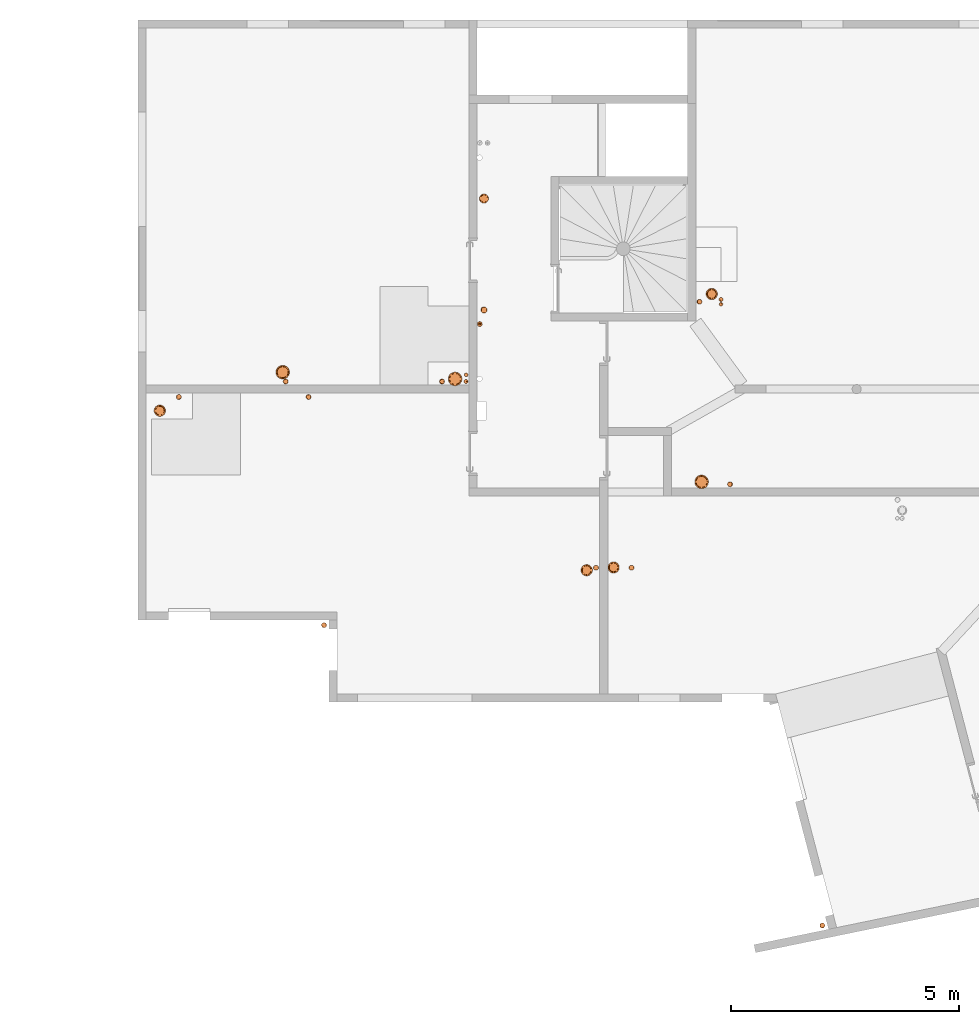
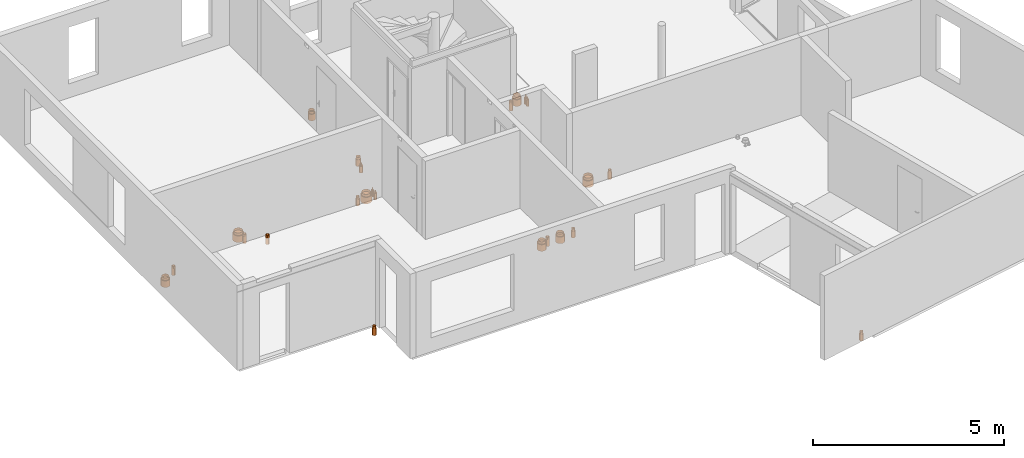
# One storey, part 22 of 24: 24 proxies.
"""IFC2X3 building model written with IfcOpenShell, lengths in centimetres."""

import ifcopenshell
import ifcopenshell.guid

model = None  # the IFC model being written
_history = None  # IfcOwnerHistory: only IFC2X3 demands one
_inside = {}  # id of a spatial element -> (the spatial element, [elements in it])
_under = {}  # id of a project, library or spatial element -> (it, [spatial elements below it])
_declared = {}  # id of a project -> (the project, [libraries it declares])
_typed = {}  # id of a type object -> (the type object, [elements of that type])
_made_of = {}  # id of a material, layer set ... -> (it, [elements and type objects made of it])


def new_model(schema):
    """Start an empty IFC model of exactly this schema.

    Asked for "IFC4X3", IfcOpenShell would pick the latest addendum, in which some entities
    have other attributes; the version numbers below select the first issue.
    IFC2X3 requires an IfcOwnerHistory on every rooted entity: one is made here for all.
    """
    global model, _history
    if schema == "IFC4X3":
        model = ifcopenshell.file(schema_version=(4, 3, 0, 0))
    else:
        model = ifcopenshell.file(schema=schema)
    _inside.clear()
    _under.clear()
    _declared.clear()
    _typed.clear()
    _made_of.clear()
    _history = None
    if model.schema == "IFC2X3":
        org = make("IfcOrganization", Name="unknown")
        user = make(
            "IfcPersonAndOrganization",
            ThePerson=make("IfcPerson", FamilyName="unknown"),
            TheOrganization=org,
        )
        app = make(
            "IfcApplication",
            ApplicationDeveloper=org,
            Version="unknown",
            ApplicationFullName="unknown",
            ApplicationIdentifier="unknown",
        )
        _history = make(
            "IfcOwnerHistory",
            OwningUser=user,
            OwningApplication=app,
            ChangeAction="ADDED",
            CreationDate=0,
        )
    return model


def make(cls, **values):
    """One entity of the class cls with the attributes given. An attribute that is None is left unset."""
    return model.create_entity(
        cls, **{name: value for name, value in values.items() if value is not None}
    )


def entity(cls, *values):
    """Any entity or typed value of the class cls, its attributes in the order of the schema. None: left unset."""
    e = model.create_entity(cls)
    for i, value in enumerate(values):
        if value is not None:
            e[i] = value
    return e


def rooted(cls, **values):
    """An entity with a GlobalId (a new one), such as an element, a storey or a relation."""
    return make(cls, GlobalId=ifcopenshell.guid.new(), OwnerHistory=_history, **values)


def si_unit(unit_type, name, prefix=None):
    """IfcSIUnit, for example si_unit("LENGTHUNIT", "METRE", prefix="MILLI")."""
    return make("IfcSIUnit", UnitType=unit_type, Prefix=prefix, Name=name)


def converted_unit(unit_type, name, factor, base, dimensions=None, offset=None):
    """IfcConversionBasedUnit, such as the inch: factor (a typed value) times the base unit."""
    return make(
        "IfcConversionBasedUnit"
        if offset is None
        else "IfcConversionBasedUnitWithOffset",
        ConversionOffset=offset,
        Dimensions=None
        if dimensions is None
        else entity("IfcDimensionalExponents", *dimensions),
        UnitType=unit_type,
        Name=name,
        ConversionFactor=make(
            "IfcMeasureWithUnit", ValueComponent=factor, UnitComponent=base
        ),
    )


def derived_unit(unit_type, elements):
    """IfcDerivedUnit: a product of units, each with its exponent."""
    return make(
        "IfcDerivedUnit",
        Elements=[
            make("IfcDerivedUnitElement", Unit=unit, Exponent=power)
            for unit, power in elements
        ],
        UnitType=unit_type,
    )


def assignment(units):
    """IfcUnitAssignment: the units of a project."""
    return None if units is None else make("IfcUnitAssignment", Units=units)


def point(xyz):
    """IfcCartesianPoint."""
    return None if xyz is None else make("IfcCartesianPoint", Coordinates=xyz)


def direction(xyz):
    """IfcDirection."""
    return None if xyz is None else make("IfcDirection", DirectionRatios=xyz)


def frame(location, z_axis=None, x_axis=None):
    """IfcAxis2Placement3D, a coordinate frame: its origin and axes. An axis left out is left unset."""
    return make(
        "IfcAxis2Placement3D",
        Location=point(location),
        Axis=direction(z_axis),
        RefDirection=direction(x_axis),
    )


def frame_2d(location, x_axis=None):
    """IfcAxis2Placement2D, a coordinate frame in the plane: its origin and x axis."""
    return make(
        "IfcAxis2Placement2D", Location=point(location), RefDirection=direction(x_axis)
    )


def origin():
    """The frame at (0, 0, 0) with its axes left unset."""
    return frame((0.0, 0.0, 0.0))


def place(relative_to, where):
    """IfcLocalPlacement: puts the frame where relative to a parent placement (None: the world)."""
    return make(
        "IfcLocalPlacement", PlacementRelTo=relative_to, RelativePlacement=where
    )


def context(
    kind, dimensions, precision=None, world=None, true_north=None, identifier=None
):
    """IfcGeometricRepresentationContext, for example the 3D "Model" context."""
    return make(
        "IfcGeometricRepresentationContext",
        ContextIdentifier=identifier,
        ContextType=kind,
        CoordinateSpaceDimension=dimensions,
        Precision=precision,
        WorldCoordinateSystem=world,
        TrueNorth=true_north,
    )


def subcontext(parent, identifier, kind, view, scale=None):
    """IfcGeometricRepresentationSubContext, for example "Body" below "Model"."""
    return make(
        "IfcGeometricRepresentationSubContext",
        ContextIdentifier=identifier,
        ContextType=kind,
        ParentContext=parent,
        TargetScale=scale,
        TargetView=view,
    )


def project(units=None, contexts=None):
    """IfcProject with its units and contexts."""
    return rooted(
        "IfcProject",
        Name="project",
        RepresentationContexts=contexts,
        UnitsInContext=assignment(units),
    )


def spatial(cls, under=None, at=None, **own):
    """A site, building, storey or space (cls), placed at a placement, below another one or the project."""
    s = rooted(cls, ObjectPlacement=at, **own)
    if under is not None:
        _under.setdefault(under.id(), (under, []))[1].append(s)
    return s


def profile(cls, at=None, kind="AREA", **sizes):
    """A parametric profile (cls). Its sizes go by their IFC names, for example OverallWidth=200.0."""
    return make(cls, ProfileType=kind, Position=at, **sizes)


def circle(**sizes):
    """IfcCircleProfileDef."""
    return profile("IfcCircleProfileDef", **sizes)


def hollow_circle(**sizes):
    """IfcCircleHollowProfileDef."""
    return profile("IfcCircleHollowProfileDef", **sizes)


def extrude(swept, where, along, depth):
    """IfcExtrudedAreaSolid: the profile swept, set in the frame where, extruded along a direction by depth."""
    return make(
        "IfcExtrudedAreaSolid",
        SweptArea=swept,
        Position=where,
        ExtrudedDirection=direction(along),
        Depth=depth,
    )


def shape(context_of_items, identifier, shape_type, items):
    """IfcShapeRepresentation: the items that make up one representation, for example the "Body"."""
    return make(
        "IfcShapeRepresentation",
        ContextOfItems=context_of_items,
        RepresentationIdentifier=identifier,
        RepresentationType=shape_type,
        Items=items,
    )


def source(mapping_origin, context_of_items, identifier, shape_type, items):
    """IfcRepresentationMap: a shape defined once, which mapped items show again and again."""
    return make(
        "IfcRepresentationMap",
        MappingOrigin=mapping_origin,
        MappedRepresentation=shape(context_of_items, identifier, shape_type, items),
    )


def transform(
    local_origin,
    x_axis=None,
    y_axis=None,
    z_axis=None,
    scale=None,
    scale2=None,
    scale3=None,
    uniform=True,
):
    """IfcCartesianTransformationOperator3D, or its non-uniform kind. x_axis, y_axis, z_axis: its Axis1, 2, 3."""
    if uniform:
        return make(
            "IfcCartesianTransformationOperator3D",
            Axis1=direction(x_axis),
            Axis2=direction(y_axis),
            LocalOrigin=point(local_origin),
            Scale=scale,
            Axis3=direction(z_axis),
        )
    return make(
        "IfcCartesianTransformationOperator3DnonUniform",
        Axis1=direction(x_axis),
        Axis2=direction(y_axis),
        LocalOrigin=point(local_origin),
        Scale=scale,
        Axis3=direction(z_axis),
        Scale2=scale2,
        Scale3=scale3,
    )


def mapped(mapping_source, mapping_target):
    """IfcMappedItem: shows the shape of a source again, moved by a transform."""
    return make(
        "IfcMappedItem", MappingSource=mapping_source, MappingTarget=mapping_target
    )


def material(Name=None, Category=None):
    """IfcMaterial."""
    return make("IfcMaterial", Name=Name, Category=Category)


def made_of(thing, what):
    """Note that an element or type object is made of a material, layer set ...; save() writes the relation."""
    if what is not None:
        _made_of.setdefault(what.id(), (what, []))[1].append(thing)
    return thing


def type_object(cls, material=None, **own):
    """A type object (cls), such as IfcWallType, which elements share."""
    return made_of(rooted(cls, **own), material)


def type_shapes(of_type, sources):
    """Give a type object the sources (RepresentationMaps) that its elements show as mapped items."""
    of_type.RepresentationMaps = sources


def element(
    cls,
    number,
    at=None,
    inside=None,
    cuts=None,
    type_object=None,
    material=None,
    context=None,
    identifier="Body",
    shape_type=None,
    held_by="IfcProductDefinitionShape",
    body=None,
    shapes=None,
    **own,
):
    """One element of the class cls, such as IfcWall. Its Tag is "e" and its number.

    at: its placement. inside: the storey or other place that contains it. cuts: it is an
    opening in that element (IfcRelVoidsElement). A single representation is given by context,
    identifier, shape_type and body (its items); several are given by shapes. held_by: the class
    of the entity that holds the representations. save() writes the other relations.
    """
    e = rooted(cls, Tag="e%d" % number, ObjectPlacement=at, **own)
    if body is not None:
        shapes = [shape(context, identifier, shape_type, body)]
    if shapes is not None:
        e.Representation = make(held_by, Representations=shapes)
    if inside is not None:
        _inside.setdefault(inside.id(), (inside, []))[1].append(e)
    if cuts is not None:
        rooted(
            "IfcRelVoidsElement", RelatingBuildingElement=cuts, RelatedOpeningElement=e
        )
    if type_object is not None:
        _typed.setdefault(type_object.id(), (type_object, []))[1].append(e)
    return made_of(e, material)


def aggregate(whole, parts):
    """IfcRelAggregates: a whole, such as a stair, and the parts it consists of."""
    return rooted("IfcRelAggregates", RelatingObject=whole, RelatedObjects=parts)


def save(model, path):
    """Write the relations noted so far, then the file.

    IfcRelAggregates (storeys below a building ...), IfcRelContainedInSpatialStructure (elements
    in a storey), IfcRelDefinesByType, IfcRelAssociatesMaterial and IfcRelDeclares: one each for
    every whole, place, type object, material and project.
    """
    for whole, parts in _under.values():
        aggregate(whole, parts)
    for where, things in _inside.values():
        rooted(
            "IfcRelContainedInSpatialStructure",
            RelatedElements=things,
            RelatingStructure=where,
        )
    for kind, things in _typed.values():
        rooted("IfcRelDefinesByType", RelatedObjects=things, RelatingType=kind)
    for what, things in _made_of.values():
        rooted("IfcRelAssociatesMaterial", RelatedObjects=things, RelatingMaterial=what)
    for by, libraries in _declared.values():
        rooted("IfcRelDeclares", RelatingContext=by, RelatedDefinitions=libraries)
    model.write(path)


model = new_model("IFC2X3")

# Units and contexts
model_context = context("Model", 3, precision=0.001, world=origin(), true_north=direction((6.12303176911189e-17, 1.0)))
body_context = subcontext(model_context, "Body", "Model", "MODEL_VIEW")
ifc_project = project(units=[si_unit("LENGTHUNIT", "METRE", prefix="CENTI"), si_unit("AREAUNIT", "SQUARE_METRE"), si_unit("VOLUMEUNIT", "CUBIC_METRE"), converted_unit("PLANEANGLEUNIT", "DEGREE", entity("IfcRatioMeasure", 0.0174532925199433), si_unit("PLANEANGLEUNIT", "RADIAN"), dimensions=[0, 0, 0, 0, 0, 0, 0]), si_unit("MASSUNIT", "GRAM", prefix="KILO"), derived_unit("MASSDENSITYUNIT", [(si_unit("MASSUNIT", "GRAM", prefix="KILO"), 1), (si_unit("LENGTHUNIT", "METRE"), -3)]), si_unit("TIMEUNIT", "SECOND"), si_unit("FREQUENCYUNIT", "HERTZ"), si_unit("THERMODYNAMICTEMPERATUREUNIT", "DEGREE_CELSIUS"), derived_unit("THERMALTRANSMITTANCEUNIT", [(si_unit("MASSUNIT", "GRAM", prefix="KILO"), 1), (si_unit("THERMODYNAMICTEMPERATUREUNIT", "KELVIN"), -1), (si_unit("TIMEUNIT", "SECOND"), -3)]), derived_unit("VOLUMETRICFLOWRATEUNIT", [(si_unit("LENGTHUNIT", "METRE"), 3), (si_unit("TIMEUNIT", "SECOND"), -1)]), si_unit("ELECTRICCURRENTUNIT", "AMPERE"), si_unit("ELECTRICVOLTAGEUNIT", "VOLT"), si_unit("POWERUNIT", "WATT"), si_unit("FORCEUNIT", "NEWTON"), si_unit("ILLUMINANCEUNIT", "LUX"), si_unit("LUMINOUSFLUXUNIT", "LUMEN"), si_unit("LUMINOUSINTENSITYUNIT", "CANDELA"), derived_unit("USERDEFINED", [(si_unit("MASSUNIT", "GRAM", prefix="KILO"), -1), (si_unit("LENGTHUNIT", "METRE"), -2), (si_unit("TIMEUNIT", "SECOND"), 3), (si_unit("LUMINOUSFLUXUNIT", "LUMEN"), 1)]), derived_unit("LINEARVELOCITYUNIT", [(si_unit("LENGTHUNIT", "METRE"), 1), (si_unit("TIMEUNIT", "SECOND"), -1)]), si_unit("PRESSUREUNIT", "PASCAL"), derived_unit("USERDEFINED", [(si_unit("LENGTHUNIT", "METRE"), -2), (si_unit("MASSUNIT", "GRAM", prefix="KILO"), 1), (si_unit("TIMEUNIT", "SECOND"), -2)])], contexts=[model_context])

# Site, building, storey
site_placement = place(None, origin())
site = spatial("IfcSite", under=ifc_project, at=site_placement, Name="Default", CompositionType="ELEMENT")
building_placement = place(site_placement, origin())
building = spatial("IfcBuilding", under=site, at=building_placement, Name="CAGE 03", CompositionType="ELEMENT")
storey_placement = place(building_placement, frame((0.0, 0.0, 1150.0)))
storey = spatial("IfcBuildingStorey", under=building, at=storey_placement, Name="R+4", CompositionType="ELEMENT", Elevation=1150.0)

# Proxies
ifc_material_1 = material(Name="Conduit EP")
building_element_proxy_type_1 = type_object("IfcBuildingElementProxyType", Name="EP 161", PredefinedType="NOTDEFINED", material=ifc_material_1)
shared_shape_1 = source(origin(), body_context, "Body", "SweptSolid", [
    extrude(circle(Radius=10.0, at=frame_2d((0.0, -1.61554457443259e-14), x_axis=(1.0, 0.0))), frame((0.0, 0.0, -21.0)), (0.0, 0.0, 1.0), 21.0),
    extrude(hollow_circle(Radius=8.0, WallThickness=0.250000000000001, at=frame_2d((0.0, -1.29243565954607e-14), x_axis=(1.0, 0.0))), frame((0.0, 0.0, -21.0)), (0.0, 0.0, 1.0), 28.5),
])
type_shapes(building_element_proxy_type_1, [shared_shape_1])
proxy_1_placement = place(storey_placement, frame((10043.5493320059, 4901.77311678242, -4.46999754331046e-07)))
element("IfcBuildingElementProxy", 1, at=proxy_1_placement, inside=storey, type_object=building_element_proxy_type_1, material=ifc_material_1, Name="Galette - Résa - PVC3:EP 161", ObjectType="EP 161", context=body_context, shape_type="MappedRepresentation", body=[
    mapped(shared_shape_1, transform((0.0, 0.0, 0.0), scale=1.0)),
])
building_element_proxy_type_2 = type_object("IfcBuildingElementProxyType", Name="EP 126", PredefinedType="NOTDEFINED", material=ifc_material_1)
shared_shape_2 = source(origin(), body_context, "Body", "SweptSolid", [
    extrude(circle(Radius=7.0, at=frame_2d((0.0, -1.13088120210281e-14), x_axis=(1.0, 0.0))), frame((0.0, 0.0, -21.0)), (0.0, 0.0, 1.0), 21.0),
    extrude(hollow_circle(Radius=6.25, WallThickness=0.25, at=frame_2d((0.0, -1.00971535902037e-14), x_axis=(1.0, 0.0))), frame((0.0, 0.0, -21.0)), (0.0, 0.0, 1.0), 28.5),
])
type_shapes(building_element_proxy_type_2, [shared_shape_2])
proxy_2_placement = place(storey_placement, frame((10043.5548418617, 4657.41074661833, -4.46999754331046e-07)))
element("IfcBuildingElementProxy", 2, at=proxy_2_placement, inside=storey, type_object=building_element_proxy_type_2, material=ifc_material_1, Name="Galette - Résa - PVC3:EP 126", ObjectType="EP 126", context=body_context, shape_type="MappedRepresentation", body=[
    mapped(shared_shape_2, transform((0.0, 0.0, 0.0), scale=1.0)),
])
building_element_proxy_type_3 = type_object("IfcBuildingElementProxyType", Name="EP 101", PredefinedType="NOTDEFINED", material=ifc_material_1)
shared_shape_3 = source(origin(), body_context, "Body", "SweptSolid", [
    extrude(circle(Radius=5.5, at=frame_2d((0.0, -8.88549515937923e-15), x_axis=(1.0, 0.0))), frame((0.0, 0.0, -21.0)), (0.0, 0.0, 1.0), 21.0),
    extrude(hollow_circle(Radius=5.0, WallThickness=0.25, at=frame_2d((0.0, -8.07772287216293e-15), x_axis=(1.0, 0.0))), frame((0.0, 0.0, -21.0)), (0.0, 0.0, 1.0), 28.5),
])
type_shapes(building_element_proxy_type_3, [shared_shape_3])
for number, where, name in (
    (3, (10785.9497545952, 3306.72517994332, -4.46999754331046e-07), "Galette - Résa - PVC3:EP 101"),
    (4, (9692.5930519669, 3965.66071816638, -4.46999754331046e-07), "Galette - Résa - PVC3:EP 101"),
):
    element("IfcBuildingElementProxy", number, at=place(storey_placement, frame(where)), inside=storey, type_object=building_element_proxy_type_3, material=ifc_material_1, Name=name, ObjectType="EP 101", context=body_context, shape_type="MappedRepresentation", body=[
        mapped(shared_shape_3, transform((0.0, 0.0, 0.0), scale=1.0)),
    ])
ifc_material_2 = material(Name="Circuit EF")
building_element_proxy_type_4 = type_object("IfcBuildingElementProxyType", Name="EF 50", PredefinedType="NOTDEFINED", material=ifc_material_2)
shared_shape_4 = source(origin(), body_context, "Body", "SweptSolid", [
    extrude(circle(Radius=5.5, at=frame_2d((0.0, -8.88549515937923e-15), x_axis=(1.0, 0.0))), frame((0.0, 0.0, -21.0)), (0.0, 0.0, 1.0), 21.0),
    extrude(hollow_circle(Radius=2.5, WallThickness=0.9, at=frame_2d((0.0, -4.03886143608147e-15), x_axis=(1.0, 0.0))), frame((0.0, 0.0, -21.0)), (0.0, 0.0, 1.0), 28.5),
])
type_shapes(building_element_proxy_type_4, [shared_shape_4])
proxy_3_placement = place(storey_placement, frame((10034.3657978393, 4626.41657255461, -4.46999754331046e-07)))
element("IfcBuildingElementProxy", 5, at=proxy_3_placement, inside=storey, type_object=building_element_proxy_type_4, material=ifc_material_2, Name="Galette - Résa - PVC3:EF 50", ObjectType="EF 50", context=body_context, shape_type="MappedRepresentation", body=[
    mapped(shared_shape_4, transform((0.0, 0.0, 0.0), scale=1.0)),
])
ifc_material_3 = material(Name="Conduit EU")
building_element_proxy_type_5 = type_object("IfcBuildingElementProxyType", Name="CFO125 P110", PredefinedType="NOTDEFINED", material=ifc_material_3)
shared_shape_5 = source(origin(), body_context, "Body", "SweptSolid", [
    extrude(circle(Radius=5.5, at=frame_2d((0.0, -8.88549515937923e-15), x_axis=(1.0, 0.0))), frame((0.0, 0.0, -21.0)), (0.0, 0.0, 1.0), 21.0),
    extrude(hollow_circle(Radius=5.0, WallThickness=0.25, at=frame_2d((0.0, -8.07772287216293e-15), x_axis=(1.0, 0.0))), frame((0.0, 0.0, -21.0)), (0.0, 0.0, 1.0), 28.5),
])
type_shapes(building_element_proxy_type_5, [shared_shape_5])
for number, where, name in (
    (6, (10516.3610475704, 4675.41484953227, -4.46999754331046e-07), "Galette - Résa - PVC3:CFO125 P110"),
    (7, (10583.5881388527, 4274.95220023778, -4.46999754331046e-07), "Galette - Résa - PVC3:CFO125 P110"),
    (8, (10289.3612124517, 4091.78429255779, -4.46999754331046e-07), "Galette - Résa - PVC3:CFO125 P110"),
    (9, (10367.3017612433, 4091.78416513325, -4.46999754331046e-07), "Galette - Résa - PVC3:CFO125 P110"),
    (10, (9374.03856475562, 4466.282688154, -4.46999754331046e-07), "Galette - Résa - PVC3:CFO125 P110"),
    (11, (9951.51198540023, 4500.43298935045, -4.46999754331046e-07), "Galette - Résa - PVC3:CFO125 P110"),
    (12, (9658.56743117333, 4466.46418000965, -4.46999754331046e-07), "Galette - Résa - PVC3:CFO125 P110"),
    (13, (9608.38501235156, 4500.4366358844, -4.46999754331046e-07), "Galette - Résa - PVC3:CFO125 P110"),
):
    element("IfcBuildingElementProxy", number, at=place(storey_placement, frame(where)), inside=storey, type_object=building_element_proxy_type_5, material=ifc_material_3, Name=name, ObjectType="CFO125 P110", context=body_context, shape_type="MappedRepresentation", body=[
        mapped(shared_shape_5, transform((0.0, 0.0, 0.0), scale=1.0)),
    ])
ifc_material_4 = material(Name="Conduit VMC")
building_element_proxy_type_6 = type_object("IfcBuildingElementProxyType", Name="CFO235 P210", PredefinedType="NOTDEFINED", material=ifc_material_4)
shared_shape_6 = source(origin(), body_context, "Body", "SweptSolid", [
    extrude(circle(Radius=12.5, at=frame_2d((0.0, -2.01943071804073e-14), x_axis=(1.0, 0.0))), frame((0.0, 0.0, -21.0)), (0.0, 0.0, 1.0), 21.0),
    extrude(hollow_circle(Radius=10.0, WallThickness=0.5, at=frame_2d((0.0, -1.61554457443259e-14), x_axis=(1.0, 0.0))), frame((0.0, 0.0, -21.0)), (0.0, 0.0, 1.0), 28.5),
])
type_shapes(building_element_proxy_type_6, [shared_shape_6])
for number, where, name in (
    (14, (10543.3017682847, 4692.50517539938, -4.46999754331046e-07), "Galette - Résa - PVC3:CFO235 P210"),
    (15, (10327.9230662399, 4092.36946065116, -4.46999754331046e-07), "Galette - Résa - PVC3:CFO235 P210"),
    (16, (10268.9349519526, 4086.28265819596, -4.46999754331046e-07), "Galette - Résa - PVC3:CFO235 P210"),
    (17, (9332.31391271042, 4436.40500268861, -4.46999754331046e-07), "Galette - Résa - PVC3:CFO235 P210"),
):
    element("IfcBuildingElementProxy", number, at=place(storey_placement, frame(where)), inside=storey, type_object=building_element_proxy_type_6, material=ifc_material_4, Name=name, ObjectType="CFO235 P210", context=body_context, shape_type="MappedRepresentation", body=[
        mapped(shared_shape_6, transform((0.0, 0.0, 0.0), scale=1.0)),
    ])
ifc_material_5 = material(Name="Circuit ECS Retour")
building_element_proxy_type_7 = type_object("IfcBuildingElementProxyType", Name="CFO100 P80", PredefinedType="NOTDEFINED", material=ifc_material_5)
shared_shape_7 = source(origin(), body_context, "Body", "SweptSolid", [
    extrude(circle(Radius=4.0, at=frame_2d((0.0, -6.46217829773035e-15), x_axis=(1.0, 0.0))), frame((0.0, 0.0, -21.0)), (0.0, 0.0, 1.0), 21.0),
    extrude(hollow_circle(Radius=1.0, WallThickness=0.0500000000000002, at=frame_2d((0.0, -1.61554457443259e-15), x_axis=(1.0, 0.0))), frame((0.0, 0.0, -21.0)), (0.0, 0.0, 1.0), 28.5),
])
type_shapes(building_element_proxy_type_7, [shared_shape_7])
for number, where, name in (
    (18, (10563.7225319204, 4670.18910916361, -4.46999754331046e-07), "Galette - Résa - PVC3:CFO100 P80"),
    (19, (10004.3066082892, 4514.90367083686, -4.46999754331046e-07), "Galette - Résa - PVC3:CFO100 P80"),
):
    element("IfcBuildingElementProxy", number, at=place(storey_placement, frame(where)), inside=storey, type_object=building_element_proxy_type_7, material=ifc_material_5, Name=name, ObjectType="CFO100 P80", context=body_context, shape_type="MappedRepresentation", body=[
        mapped(shared_shape_7, transform((0.0, 0.0, 0.0), scale=1.0)),
    ])
ifc_material_6 = material(Name="Circuit ECS Aller")
building_element_proxy_type_8 = type_object("IfcBuildingElementProxyType", Name="CFO100 P90", PredefinedType="NOTDEFINED", material=ifc_material_6)
shared_shape_8 = source(origin(), body_context, "Body", "SweptSolid", [
    extrude(circle(Radius=4.5, at=frame_2d((0.0, -7.26995058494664e-15), x_axis=(1.0, 0.0))), frame((0.0, 0.0, -21.0)), (0.0, 0.0, 1.0), 21.0),
    extrude(hollow_circle(Radius=1.6, WallThickness=0.05, at=frame_2d((0.0, -2.58487131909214e-15), x_axis=(1.0, 0.0))), frame((0.0, 0.0, -21.0)), (0.0, 0.0, 1.0), 28.5),
])
type_shapes(building_element_proxy_type_8, [shared_shape_8])
for number, where, name in (
    (20, (10563.7225319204, 4680.14295650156, -4.46999754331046e-07), "Galette - Résa - PVC3:CFO100 P90"),
    (21, (10004.3066082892, 4500.43298935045, -4.46999754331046e-07), "Galette - Résa - PVC3:CFO100 P90"),
):
    element("IfcBuildingElementProxy", number, at=place(storey_placement, frame(where)), inside=storey, type_object=building_element_proxy_type_8, material=ifc_material_6, Name=name, ObjectType="CFO100 P90", context=body_context, shape_type="MappedRepresentation", body=[
        mapped(shared_shape_8, transform((0.0, 0.0, 0.0), scale=1.0)),
    ])
building_element_proxy_type_9 = type_object("IfcBuildingElementProxyType", Name="CFO285 P260", PredefinedType="NOTDEFINED", material=ifc_material_4)
shared_shape_9 = source(origin(), body_context, "Body", "SweptSolid", [
    extrude(circle(Radius=15.0, at=frame_2d((0.0, -2.42331686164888e-14), x_axis=(1.0, 0.0))), frame((0.0, 0.0, -21.0)), (0.0, 0.0, 1.0), 21.0),
    extrude(hollow_circle(Radius=12.5, WallThickness=0.499999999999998, at=frame_2d((0.0, -2.01943071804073e-14), x_axis=(1.0, 0.0))), frame((0.0, 0.0, -21.0)), (0.0, 0.0, 1.0), 28.5),
])
type_shapes(building_element_proxy_type_9, [shared_shape_9])
for number, where, name in (
    (22, (10521.0266728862, 4280.19633996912, -4.46999754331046e-07), "Galette - Résa - PVC3:CFO285 P260"),
    (23, (9980.14441648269, 4505.98818311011, -4.46999754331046e-07), "Galette - Résa - PVC3:CFO285 P260"),
    (24, (9601.89552831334, 4520.87657578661, -4.46999754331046e-07), "Galette - Résa - PVC3:CFO285 P260"),
):
    element("IfcBuildingElementProxy", number, at=place(storey_placement, frame(where)), inside=storey, type_object=building_element_proxy_type_9, material=ifc_material_4, Name=name, ObjectType="CFO285 P260", context=body_context, shape_type="MappedRepresentation", body=[
        mapped(shared_shape_9, transform((0.0, 0.0, 0.0), scale=1.0)),
    ])

save(model, "model.ifc")
